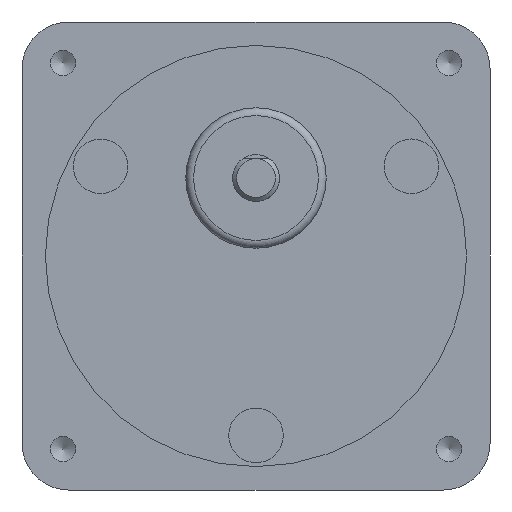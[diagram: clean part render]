
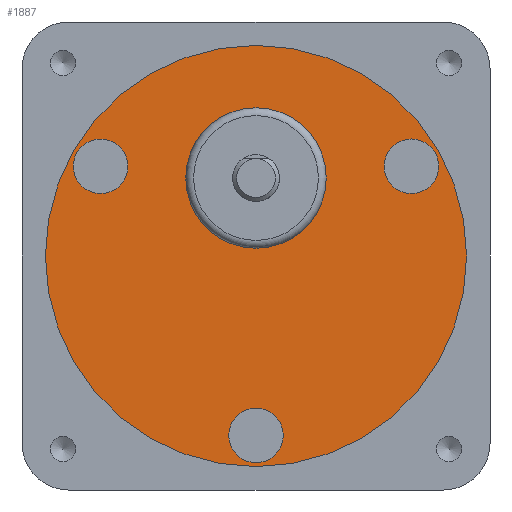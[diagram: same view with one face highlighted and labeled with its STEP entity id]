
A CAD part, front view. The second image highlights one B-rep face of the part: STEP entity #1887.
In plain terms, the highlighted planar face has unit normal (0, -1, 0).
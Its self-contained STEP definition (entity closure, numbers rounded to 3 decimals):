
#759=CARTESIAN_POINT('',(18.169,-3.5,14.531));
#760=VERTEX_POINT('',#759);
#761=CARTESIAN_POINT('',(19.919,-3.5,11.5));
#762=DIRECTION('',(0.0,1.0,0.0));
#763=DIRECTION('',(0.5,0.0,-0.866));
#764=AXIS2_PLACEMENT_3D('',#761,#762,#763);
#765=CIRCLE('',#764,3.5);
#766=EDGE_CURVE('',#760,#760,#765,.T.);
#796=CARTESIAN_POINT('',(-21.669,-3.5,8.469));
#797=VERTEX_POINT('',#796);
#798=CARTESIAN_POINT('',(-19.919,-3.5,11.5));
#799=DIRECTION('',(0.0,1.,0.0));
#800=DIRECTION('',(0.5,0.0,0.866));
#801=AXIS2_PLACEMENT_3D('',#798,#799,#800);
#802=CIRCLE('',#801,3.5);
#803=EDGE_CURVE('',#797,#797,#802,.T.);
#833=CARTESIAN_POINT('',(3.5,-3.5,-23.));
#834=VERTEX_POINT('',#833);
#835=CARTESIAN_POINT('',(0.,-3.5,-23.));
#836=DIRECTION('',(0.0,1.0,0.0));
#837=DIRECTION('',(-1.0,0.0,0.0));
#838=AXIS2_PLACEMENT_3D('',#835,#836,#837);
#839=CIRCLE('',#838,3.5);
#840=EDGE_CURVE('',#834,#834,#839,.T.);
#1836=CARTESIAN_POINT('',(27.,-3.5,0.));
#1837=VERTEX_POINT('',#1836);
#1838=CARTESIAN_POINT('',(0.,-3.5,0.));
#1839=DIRECTION('',(0.0,-1.0,0.0));
#1840=DIRECTION('',(-1.0,0.0,0.0));
#1841=AXIS2_PLACEMENT_3D('',#1838,#1839,#1840);
#1842=CIRCLE('',#1841,27.0);
#1843=EDGE_CURVE('',#1837,#1837,#1842,.T.);
#1859=CARTESIAN_POINT('',(0.,-3.5,0.));
#1860=DIRECTION('',(0.0,1.0,0.0));
#1861=DIRECTION('',(0.0,0.0,1.0));
#1862=AXIS2_PLACEMENT_3D('',#1859,#1860,#1861);
#1863=PLANE('',#1862);
#1864=ORIENTED_EDGE('',*,*,#1843,.T.);
#1865=EDGE_LOOP('',(#1864));
#1866=FACE_OUTER_BOUND('',#1865,.T.);
#1867=ORIENTED_EDGE('',*,*,#766,.T.);
#1868=EDGE_LOOP('',(#1867));
#1869=FACE_BOUND('',#1868,.T.);
#1870=ORIENTED_EDGE('',*,*,#803,.T.);
#1871=EDGE_LOOP('',(#1870));
#1872=FACE_BOUND('',#1871,.T.);
#1873=ORIENTED_EDGE('',*,*,#840,.T.);
#1874=EDGE_LOOP('',(#1873));
#1875=FACE_BOUND('',#1874,.T.);
#1876=CARTESIAN_POINT('',(9.,-3.5,10.));
#1877=VERTEX_POINT('',#1876);
#1878=CARTESIAN_POINT('',(0.,-3.5,10.));
#1879=DIRECTION('',(0.0,-1.0,0.0));
#1880=DIRECTION('',(-1.0,0.0,0.0));
#1881=AXIS2_PLACEMENT_3D('',#1878,#1879,#1880);
#1882=CIRCLE('',#1881,9.0);
#1883=EDGE_CURVE('',#1877,#1877,#1882,.T.);
#1884=ORIENTED_EDGE('',*,*,#1883,.F.);
#1885=EDGE_LOOP('',(#1884));
#1886=FACE_BOUND('',#1885,.T.);
#1887=ADVANCED_FACE('',(#1866,#1869,#1872,#1875,#1886),#1863,.F.);
